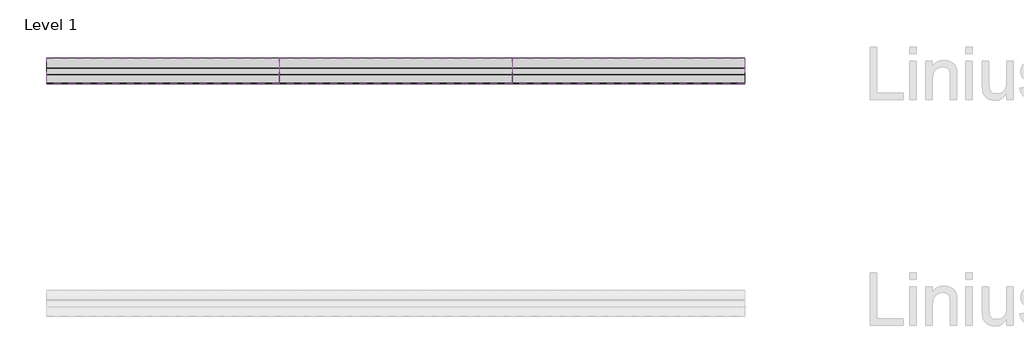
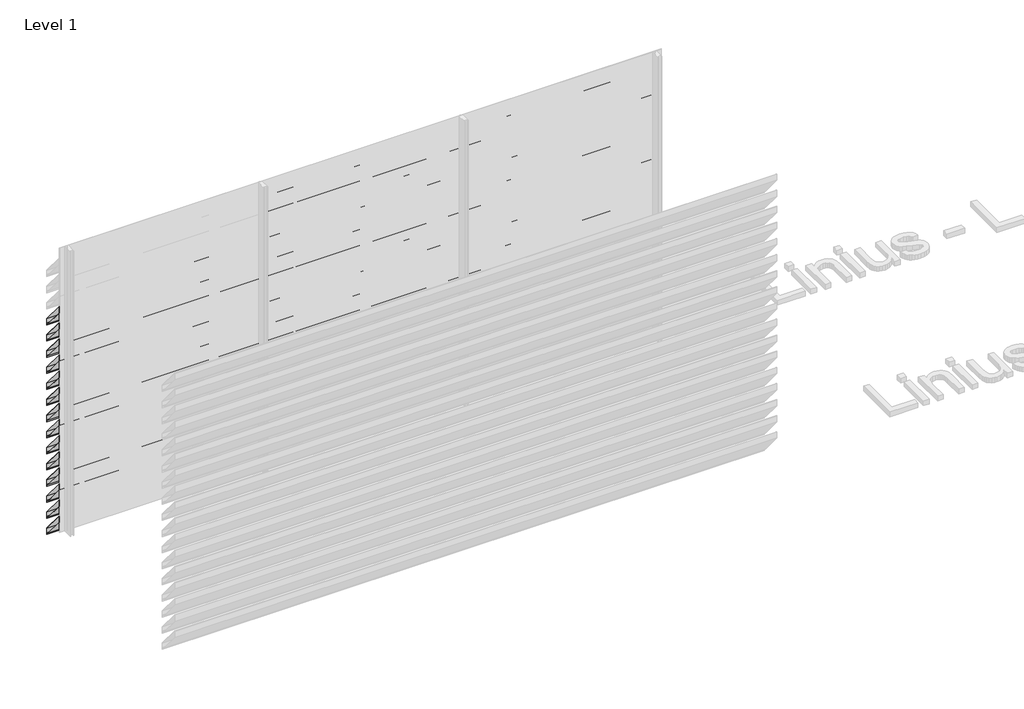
# One storey, part 43 of 121: 48 proxies.
"""IFC4 building model written with IfcOpenShell, lengths in millimetres."""

from ifc_helpers import new_model, si_unit, frame, origin, place, context, project, spatial, polyline, outline, extrude, element, save

model = new_model("IFC4")

# Units and contexts
model_context = context("Model", 3, world=origin())
ifc_project = project(units=[si_unit("LENGTHUNIT", "METRE", prefix="MILLI")], contexts=[model_context])

# Site, building, storey
site = spatial("IfcSite", under=ifc_project)
building = spatial("IfcBuilding", under=site)
storey = spatial("IfcBuildingStorey", under=building, Name="Level 1", Elevation=0.0)

# Proxies
placement = place(None, origin())
element("IfcBuildingElementProxy", 1, Name="Wall Sweeps", at=placement, inside=storey, context=model_context, shape_type="SweptSolid", body=[
    extrude(outline(polyline([(51705.0540136, 2121.0), (51705.0540136, 2052.0), (51702.5540136, 2053.1657691), (51702.5540136, 2066.7059843), (51685.8041465, 2086.6676986), (51675.1189071, 2086.6676986), (51483.0540136, 2315.5617253), (51483.0540136, 2380.0), (51487.7272091, 2380.0), (51705.0540136, 2121.0)]), holes=[polyline([(51486.8412246, 2378.1), (51484.9540136, 2378.1), (51484.9540136, 2316.2532688), (51676.0048916, 2088.5676986), (51686.6901311, 2088.5676986), (51703.1540136, 2068.9468074), (51703.1540136, 2120.3084566), (51486.8412246, 2378.1)])]), frame((466.6208097, 0.0, 0.0), z_axis=(1.0, 0.0, 0.0), x_axis=(0.0, 1.0, 0.0)), (0.0, 0.0, 1.0), 2000.0),
])
element("IfcBuildingElementProxy", 2, Name="Wall Sweeps", at=placement, inside=storey, context=model_context, shape_type="SweptSolid", body=[
    extrude(outline(polyline([(51705.0540136, 1951.0), (51705.0540136, 1882.0), (51702.5540136, 1883.1657691), (51702.5540136, 1896.7059843), (51685.8041465, 1916.6676986), (51675.1189071, 1916.6676986), (51483.0540136, 2145.5617253), (51483.0540136, 2210.0), (51487.7272091, 2210.0), (51705.0540136, 1951.0)]), holes=[polyline([(51486.8412246, 2208.1), (51484.9540136, 2208.1), (51484.9540136, 2146.2532688), (51676.0048916, 1918.5676986), (51686.6901311, 1918.5676986), (51703.1540136, 1898.9468074), (51703.1540136, 1950.3084566), (51486.8412246, 2208.1)])]), frame((466.6208097, 0.0, 0.0), z_axis=(1.0, 0.0, 0.0), x_axis=(0.0, 1.0, 0.0)), (0.0, 0.0, 1.0), 2000.0),
])
element("IfcBuildingElementProxy", 3, Name="Wall Sweeps", at=placement, inside=storey, context=model_context, shape_type="SweptSolid", body=[
    extrude(outline(polyline([(51705.0540136, 1781.0), (51705.0540136, 1712.0), (51702.5540136, 1713.1657691), (51702.5540136, 1726.7059843), (51685.8041465, 1746.6676986), (51675.1189071, 1746.6676986), (51483.0540136, 1975.5617253), (51483.0540136, 2040.0), (51487.7272091, 2040.0), (51705.0540136, 1781.0)]), holes=[polyline([(51486.8412246, 2038.1), (51484.9540136, 2038.1), (51484.9540136, 1976.2532688), (51676.0048916, 1748.5676986), (51686.6901311, 1748.5676986), (51703.1540136, 1728.9468074), (51703.1540136, 1780.3084566), (51486.8412246, 2038.1)])]), frame((466.6208097, 0.0, 0.0), z_axis=(1.0, 0.0, 0.0), x_axis=(0.0, 1.0, 0.0)), (0.0, 0.0, 1.0), 2000.0),
])
element("IfcBuildingElementProxy", 4, Name="Wall Sweeps", at=placement, inside=storey, context=model_context, shape_type="SweptSolid", body=[
    extrude(outline(polyline([(51705.0540136, 1611.0), (51705.0540136, 1542.0), (51702.5540136, 1543.1657691), (51702.5540136, 1556.7059843), (51685.8041465, 1576.6676986), (51675.1189071, 1576.6676986), (51483.0540136, 1805.5617253), (51483.0540136, 1870.0), (51487.7272091, 1870.0), (51705.0540136, 1611.0)]), holes=[polyline([(51486.8412246, 1868.1), (51484.9540136, 1868.1), (51484.9540136, 1806.2532688), (51676.0048916, 1578.5676986), (51686.6901311, 1578.5676986), (51703.1540136, 1558.9468074), (51703.1540136, 1610.3084566), (51486.8412246, 1868.1)])]), frame((466.6208097, 0.0, 0.0), z_axis=(1.0, 0.0, 0.0), x_axis=(0.0, 1.0, 0.0)), (0.0, 0.0, 1.0), 2000.0),
])
element("IfcBuildingElementProxy", 5, Name="Wall Sweeps", at=placement, inside=storey, context=model_context, shape_type="SweptSolid", body=[
    extrude(outline(polyline([(51705.0540136, 1441.0), (51705.0540136, 1372.0), (51702.5540136, 1373.1657691), (51702.5540136, 1386.7059843), (51685.8041465, 1406.6676986), (51675.1189071, 1406.6676986), (51483.0540136, 1635.5617253), (51483.0540136, 1700.0), (51487.7272091, 1700.0), (51705.0540136, 1441.0)]), holes=[polyline([(51486.8412246, 1698.1), (51484.9540136, 1698.1), (51484.9540136, 1636.2532688), (51676.0048916, 1408.5676986), (51686.6901311, 1408.5676986), (51703.1540136, 1388.9468074), (51703.1540136, 1440.3084566), (51486.8412246, 1698.1)])]), frame((466.6208097, 0.0, 0.0), z_axis=(1.0, 0.0, 0.0), x_axis=(0.0, 1.0, 0.0)), (0.0, 0.0, 1.0), 2000.0),
])
element("IfcBuildingElementProxy", 6, Name="Wall Sweeps", at=placement, inside=storey, context=model_context, shape_type="SweptSolid", body=[
    extrude(outline(polyline([(51705.0540136, 1271.0), (51705.0540136, 1202.0), (51702.5540136, 1203.1657691), (51702.5540136, 1216.7059843), (51685.8041465, 1236.6676986), (51675.1189071, 1236.6676986), (51483.0540136, 1465.5617253), (51483.0540136, 1530.0), (51487.7272091, 1530.0), (51705.0540136, 1271.0)]), holes=[polyline([(51486.8412246, 1528.1), (51484.9540136, 1528.1), (51484.9540136, 1466.2532688), (51676.0048916, 1238.5676986), (51686.6901311, 1238.5676986), (51703.1540136, 1218.9468074), (51703.1540136, 1270.3084566), (51486.8412246, 1528.1)])]), frame((466.6208097, 0.0, 0.0), z_axis=(1.0, 0.0, 0.0), x_axis=(0.0, 1.0, 0.0)), (0.0, 0.0, 1.0), 2000.0),
])
element("IfcBuildingElementProxy", 7, Name="Wall Sweeps", at=placement, inside=storey, context=model_context, shape_type="SweptSolid", body=[
    extrude(outline(polyline([(51705.0540136, 1101.0), (51705.0540136, 1032.0), (51702.5540136, 1033.1657691), (51702.5540136, 1046.7059843), (51685.8041465, 1066.6676986), (51675.1189071, 1066.6676986), (51483.0540136, 1295.5617253), (51483.0540136, 1360.0), (51487.7272091, 1360.0), (51705.0540136, 1101.0)]), holes=[polyline([(51486.8412246, 1358.1), (51484.9540136, 1358.1), (51484.9540136, 1296.2532688), (51676.0048916, 1068.5676986), (51686.6901311, 1068.5676986), (51703.1540136, 1048.9468074), (51703.1540136, 1100.3084566), (51486.8412246, 1358.1)])]), frame((466.6208097, 0.0, 0.0), z_axis=(1.0, 0.0, 0.0), x_axis=(0.0, 1.0, 0.0)), (0.0, 0.0, 1.0), 2000.0),
])
element("IfcBuildingElementProxy", 8, Name="Wall Sweeps", at=placement, inside=storey, context=model_context, shape_type="SweptSolid", body=[
    extrude(outline(polyline([(51705.0540136, 931.0), (51705.0540136, 862.0), (51702.5540136, 863.1657691), (51702.5540136, 876.7059843), (51685.8041465, 896.6676986), (51675.1189071, 896.6676986), (51483.0540136, 1125.5617253), (51483.0540136, 1190.0), (51487.7272091, 1190.0), (51705.0540136, 931.0)]), holes=[polyline([(51486.8412246, 1188.1), (51484.9540136, 1188.1), (51484.9540136, 1126.2532688), (51676.0048916, 898.5676986), (51686.6901311, 898.5676986), (51703.1540136, 878.9468074), (51703.1540136, 930.3084566), (51486.8412246, 1188.1)])]), frame((466.6208097, 0.0, 0.0), z_axis=(1.0, 0.0, 0.0), x_axis=(0.0, 1.0, 0.0)), (0.0, 0.0, 1.0), 2000.0),
])
element("IfcBuildingElementProxy", 9, Name="Wall Sweeps", at=placement, inside=storey, context=model_context, shape_type="SweptSolid", body=[
    extrude(outline(polyline([(51705.0540136, 761.0), (51705.0540136, 692.0), (51702.5540136, 693.1657691), (51702.5540136, 706.7059843), (51685.8041465, 726.6676986), (51675.1189071, 726.6676986), (51483.0540136, 955.5617253), (51483.0540136, 1020.0), (51487.7272091, 1020.0), (51705.0540136, 761.0)]), holes=[polyline([(51486.8412246, 1018.1), (51484.9540136, 1018.1), (51484.9540136, 956.2532688), (51676.0048916, 728.5676986), (51686.6901311, 728.5676986), (51703.1540136, 708.9468074), (51703.1540136, 760.3084566), (51486.8412246, 1018.1)])]), frame((466.6208097, 0.0, 0.0), z_axis=(1.0, 0.0, 0.0), x_axis=(0.0, 1.0, 0.0)), (0.0, 0.0, 1.0), 2000.0),
])
element("IfcBuildingElementProxy", 10, Name="Wall Sweeps", at=placement, inside=storey, context=model_context, shape_type="SweptSolid", body=[
    extrude(outline(polyline([(51705.0540136, 591.0), (51705.0540136, 522.0), (51702.5540136, 523.1657691), (51702.5540136, 536.7059843), (51685.8041465, 556.6676986), (51675.1189071, 556.6676986), (51483.0540136, 785.5617253), (51483.0540136, 850.0), (51487.7272091, 850.0), (51705.0540136, 591.0)]), holes=[polyline([(51486.8412246, 848.1), (51484.9540136, 848.1), (51484.9540136, 786.2532688), (51676.0048916, 558.5676986), (51686.6901311, 558.5676986), (51703.1540136, 538.9468074), (51703.1540136, 590.3084566), (51486.8412246, 848.1)])]), frame((466.6208097, 0.0, 0.0), z_axis=(1.0, 0.0, 0.0), x_axis=(0.0, 1.0, 0.0)), (0.0, 0.0, 1.0), 2000.0),
])
element("IfcBuildingElementProxy", 11, Name="Wall Sweeps", at=placement, inside=storey, context=model_context, shape_type="SweptSolid", body=[
    extrude(outline(polyline([(51705.0540136, 421.0), (51705.0540136, 352.0), (51702.5540136, 353.1657691), (51702.5540136, 366.7059843), (51685.8041465, 386.6676986), (51675.1189071, 386.6676986), (51483.0540136, 615.5617253), (51483.0540136, 680.0), (51487.7272091, 680.0), (51705.0540136, 421.0)]), holes=[polyline([(51486.8412246, 678.1), (51484.9540136, 678.1), (51484.9540136, 616.2532688), (51676.0048916, 388.5676986), (51686.6901311, 388.5676986), (51703.1540136, 368.9468074), (51703.1540136, 420.3084566), (51486.8412246, 678.1)])]), frame((466.6208097, 0.0, 0.0), z_axis=(1.0, 0.0, 0.0), x_axis=(0.0, 1.0, 0.0)), (0.0, 0.0, 1.0), 2000.0),
])
element("IfcBuildingElementProxy", 12, Name="Wall Sweeps", at=placement, inside=storey, context=model_context, shape_type="SweptSolid", body=[
    extrude(outline(polyline([(51705.0540136, 251.0), (51705.0540136, 182.0), (51702.5540136, 183.1657691), (51702.5540136, 196.7059843), (51685.8041465, 216.6676986), (51675.1189071, 216.6676986), (51483.0540136, 445.5617253), (51483.0540136, 510.0), (51487.7272091, 510.0), (51705.0540136, 251.0)]), holes=[polyline([(51486.8412246, 508.1), (51484.9540136, 508.1), (51484.9540136, 446.2532688), (51676.0048916, 218.5676986), (51686.6901311, 218.5676986), (51703.1540136, 198.9468074), (51703.1540136, 250.3084566), (51486.8412246, 508.1)])]), frame((466.6208097, 0.0, 0.0), z_axis=(1.0, 0.0, 0.0), x_axis=(0.0, 1.0, 0.0)), (0.0, 0.0, 1.0), 2000.0),
])
element("IfcBuildingElementProxy", 13, Name="Wall Sweeps", at=placement, inside=storey, context=model_context, shape_type="SweptSolid", body=[
    extrude(outline(polyline([(51705.0540136, 81.0), (51705.0540136, 12.0), (51702.5540136, 13.1657691), (51702.5540136, 26.7059843), (51685.8041465, 46.6676986), (51675.1189071, 46.6676986), (51483.0540136, 275.5617253), (51483.0540136, 340.0), (51487.7272091, 340.0), (51705.0540136, 81.0)]), holes=[polyline([(51486.8412246, 338.1), (51484.9540136, 338.1), (51484.9540136, 276.2532688), (51676.0048916, 48.5676986), (51686.6901311, 48.5676986), (51703.1540136, 28.9468074), (51703.1540136, 80.3084566), (51486.8412246, 338.1)])]), frame((466.6208097, 0.0, 0.0), z_axis=(1.0, 0.0, 0.0), x_axis=(0.0, 1.0, 0.0)), (0.0, 0.0, 1.0), 2000.0),
])
element("IfcBuildingElementProxy", 14, Name="Wall Sweeps", at=placement, inside=storey, context=model_context, shape_type="SweptSolid", body=[
    extrude(outline(polyline([(51705.0540136, -89.0), (51705.0540136, -158.0), (51702.5540136, -156.8342309), (51702.5540136, -143.2940157), (51685.8041465, -123.3323014), (51675.1189071, -123.3323014), (51483.0540136, 105.5617253), (51483.0540136, 170.0), (51487.7272091, 170.0), (51705.0540136, -89.0)]), holes=[polyline([(51486.8412246, 168.1), (51484.9540136, 168.1), (51484.9540136, 106.2532688), (51676.0048916, -121.4323014), (51686.6901311, -121.4323014), (51703.1540136, -141.0531926), (51703.1540136, -89.6915434), (51486.8412246, 168.1)])]), frame((466.6208097, 0.0, 0.0), z_axis=(1.0, 0.0, 0.0), x_axis=(0.0, 1.0, 0.0)), (0.0, 0.0, 1.0), 2000.0),
])
element("IfcBuildingElementProxy", 15, Name="Wall Sweeps", at=placement, inside=storey, context=model_context, shape_type="SweptSolid", body=[
    extrude(outline(polyline([(51705.0540136, 2631.0), (51705.0540136, 2562.0), (51702.5540136, 2563.1657691), (51702.5540136, 2576.7059843), (51685.8041465, 2596.6676986), (51675.1189071, 2596.6676986), (51483.0540136, 2825.5617253), (51483.0540136, 2890.0), (51487.7272091, 2890.0), (51705.0540136, 2631.0)]), holes=[polyline([(51486.8412246, 2888.1), (51484.9540136, 2888.1), (51484.9540136, 2826.2532688), (51676.0048916, 2598.5676986), (51686.6901311, 2598.5676986), (51703.1540136, 2578.9468074), (51703.1540136, 2630.3084566), (51486.8412246, 2888.1)])]), frame((2466.6208097, 0.0, 0.0), z_axis=(1.0, 0.0, 0.0), x_axis=(0.0, 1.0, 0.0)), (0.0, 0.0, 1.0), 2000.0),
])
element("IfcBuildingElementProxy", 16, Name="Wall Sweeps", at=placement, inside=storey, context=model_context, shape_type="SweptSolid", body=[
    extrude(outline(polyline([(51705.0540136, 2461.0), (51705.0540136, 2392.0), (51702.5540136, 2393.1657691), (51702.5540136, 2406.7059843), (51685.8041465, 2426.6676986), (51675.1189071, 2426.6676986), (51483.0540136, 2655.5617253), (51483.0540136, 2720.0), (51487.7272091, 2720.0), (51705.0540136, 2461.0)]), holes=[polyline([(51486.8412246, 2718.1), (51484.9540136, 2718.1), (51484.9540136, 2656.2532688), (51676.0048916, 2428.5676986), (51686.6901311, 2428.5676986), (51703.1540136, 2408.9468074), (51703.1540136, 2460.3084566), (51486.8412246, 2718.1)])]), frame((2466.6208097, 0.0, 0.0), z_axis=(1.0, 0.0, 0.0), x_axis=(0.0, 1.0, 0.0)), (0.0, 0.0, 1.0), 2000.0),
])
element("IfcBuildingElementProxy", 17, Name="Wall Sweeps", at=placement, inside=storey, context=model_context, shape_type="SweptSolid", body=[
    extrude(outline(polyline([(51705.0540136, 2291.0), (51705.0540136, 2222.0), (51702.5540136, 2223.1657691), (51702.5540136, 2236.7059843), (51685.8041465, 2256.6676986), (51675.1189071, 2256.6676986), (51483.0540136, 2485.5617253), (51483.0540136, 2550.0), (51487.7272091, 2550.0), (51705.0540136, 2291.0)]), holes=[polyline([(51486.8412246, 2548.1), (51484.9540136, 2548.1), (51484.9540136, 2486.2532688), (51676.0048916, 2258.5676986), (51686.6901311, 2258.5676986), (51703.1540136, 2238.9468074), (51703.1540136, 2290.3084566), (51486.8412246, 2548.1)])]), frame((2466.6208097, 0.0, 0.0), z_axis=(1.0, 0.0, 0.0), x_axis=(0.0, 1.0, 0.0)), (0.0, 0.0, 1.0), 2000.0),
])
element("IfcBuildingElementProxy", 18, Name="Wall Sweeps", at=placement, inside=storey, context=model_context, shape_type="SweptSolid", body=[
    extrude(outline(polyline([(51705.0540136, 2121.0), (51705.0540136, 2052.0), (51702.5540136, 2053.1657691), (51702.5540136, 2066.7059843), (51685.8041465, 2086.6676986), (51675.1189071, 2086.6676986), (51483.0540136, 2315.5617253), (51483.0540136, 2380.0), (51487.7272091, 2380.0), (51705.0540136, 2121.0)]), holes=[polyline([(51486.8412246, 2378.1), (51484.9540136, 2378.1), (51484.9540136, 2316.2532688), (51676.0048916, 2088.5676986), (51686.6901311, 2088.5676986), (51703.1540136, 2068.9468074), (51703.1540136, 2120.3084566), (51486.8412246, 2378.1)])]), frame((2466.6208097, 0.0, 0.0), z_axis=(1.0, 0.0, 0.0), x_axis=(0.0, 1.0, 0.0)), (0.0, 0.0, 1.0), 2000.0),
])
element("IfcBuildingElementProxy", 19, Name="Wall Sweeps", at=placement, inside=storey, context=model_context, shape_type="SweptSolid", body=[
    extrude(outline(polyline([(51705.0540136, 1951.0), (51705.0540136, 1882.0), (51702.5540136, 1883.1657691), (51702.5540136, 1896.7059843), (51685.8041465, 1916.6676986), (51675.1189071, 1916.6676986), (51483.0540136, 2145.5617253), (51483.0540136, 2210.0), (51487.7272091, 2210.0), (51705.0540136, 1951.0)]), holes=[polyline([(51486.8412246, 2208.1), (51484.9540136, 2208.1), (51484.9540136, 2146.2532688), (51676.0048916, 1918.5676986), (51686.6901311, 1918.5676986), (51703.1540136, 1898.9468074), (51703.1540136, 1950.3084566), (51486.8412246, 2208.1)])]), frame((2466.6208097, 0.0, 0.0), z_axis=(1.0, 0.0, 0.0), x_axis=(0.0, 1.0, 0.0)), (0.0, 0.0, 1.0), 2000.0),
])
element("IfcBuildingElementProxy", 20, Name="Wall Sweeps", at=placement, inside=storey, context=model_context, shape_type="SweptSolid", body=[
    extrude(outline(polyline([(51705.0540136, 1781.0), (51705.0540136, 1712.0), (51702.5540136, 1713.1657691), (51702.5540136, 1726.7059843), (51685.8041465, 1746.6676986), (51675.1189071, 1746.6676986), (51483.0540136, 1975.5617253), (51483.0540136, 2040.0), (51487.7272091, 2040.0), (51705.0540136, 1781.0)]), holes=[polyline([(51486.8412246, 2038.1), (51484.9540136, 2038.1), (51484.9540136, 1976.2532688), (51676.0048916, 1748.5676986), (51686.6901311, 1748.5676986), (51703.1540136, 1728.9468074), (51703.1540136, 1780.3084566), (51486.8412246, 2038.1)])]), frame((2466.6208097, 0.0, 0.0), z_axis=(1.0, 0.0, 0.0), x_axis=(0.0, 1.0, 0.0)), (0.0, 0.0, 1.0), 2000.0),
])
element("IfcBuildingElementProxy", 21, Name="Wall Sweeps", at=placement, inside=storey, context=model_context, shape_type="SweptSolid", body=[
    extrude(outline(polyline([(51705.0540136, 1611.0), (51705.0540136, 1542.0), (51702.5540136, 1543.1657691), (51702.5540136, 1556.7059843), (51685.8041465, 1576.6676986), (51675.1189071, 1576.6676986), (51483.0540136, 1805.5617253), (51483.0540136, 1870.0), (51487.7272091, 1870.0), (51705.0540136, 1611.0)]), holes=[polyline([(51486.8412246, 1868.1), (51484.9540136, 1868.1), (51484.9540136, 1806.2532688), (51676.0048916, 1578.5676986), (51686.6901311, 1578.5676986), (51703.1540136, 1558.9468074), (51703.1540136, 1610.3084566), (51486.8412246, 1868.1)])]), frame((2466.6208097, 0.0, 0.0), z_axis=(1.0, 0.0, 0.0), x_axis=(0.0, 1.0, 0.0)), (0.0, 0.0, 1.0), 2000.0),
])
element("IfcBuildingElementProxy", 22, Name="Wall Sweeps", at=placement, inside=storey, context=model_context, shape_type="SweptSolid", body=[
    extrude(outline(polyline([(51705.0540136, 1441.0), (51705.0540136, 1372.0), (51702.5540136, 1373.1657691), (51702.5540136, 1386.7059843), (51685.8041465, 1406.6676986), (51675.1189071, 1406.6676986), (51483.0540136, 1635.5617253), (51483.0540136, 1700.0), (51487.7272091, 1700.0), (51705.0540136, 1441.0)]), holes=[polyline([(51486.8412246, 1698.1), (51484.9540136, 1698.1), (51484.9540136, 1636.2532688), (51676.0048916, 1408.5676986), (51686.6901311, 1408.5676986), (51703.1540136, 1388.9468074), (51703.1540136, 1440.3084566), (51486.8412246, 1698.1)])]), frame((2466.6208097, 0.0, 0.0), z_axis=(1.0, 0.0, 0.0), x_axis=(0.0, 1.0, 0.0)), (0.0, 0.0, 1.0), 2000.0),
])
element("IfcBuildingElementProxy", 23, Name="Wall Sweeps", at=placement, inside=storey, context=model_context, shape_type="SweptSolid", body=[
    extrude(outline(polyline([(51705.0540136, 1271.0), (51705.0540136, 1202.0), (51702.5540136, 1203.1657691), (51702.5540136, 1216.7059843), (51685.8041465, 1236.6676986), (51675.1189071, 1236.6676986), (51483.0540136, 1465.5617253), (51483.0540136, 1530.0), (51487.7272091, 1530.0), (51705.0540136, 1271.0)]), holes=[polyline([(51486.8412246, 1528.1), (51484.9540136, 1528.1), (51484.9540136, 1466.2532688), (51676.0048916, 1238.5676986), (51686.6901311, 1238.5676986), (51703.1540136, 1218.9468074), (51703.1540136, 1270.3084566), (51486.8412246, 1528.1)])]), frame((2466.6208097, 0.0, 0.0), z_axis=(1.0, 0.0, 0.0), x_axis=(0.0, 1.0, 0.0)), (0.0, 0.0, 1.0), 2000.0),
])
element("IfcBuildingElementProxy", 24, Name="Wall Sweeps", at=placement, inside=storey, context=model_context, shape_type="SweptSolid", body=[
    extrude(outline(polyline([(51705.0540136, 1101.0), (51705.0540136, 1032.0), (51702.5540136, 1033.1657691), (51702.5540136, 1046.7059843), (51685.8041465, 1066.6676986), (51675.1189071, 1066.6676986), (51483.0540136, 1295.5617253), (51483.0540136, 1360.0), (51487.7272091, 1360.0), (51705.0540136, 1101.0)]), holes=[polyline([(51486.8412246, 1358.1), (51484.9540136, 1358.1), (51484.9540136, 1296.2532688), (51676.0048916, 1068.5676986), (51686.6901311, 1068.5676986), (51703.1540136, 1048.9468074), (51703.1540136, 1100.3084566), (51486.8412246, 1358.1)])]), frame((2466.6208097, 0.0, 0.0), z_axis=(1.0, 0.0, 0.0), x_axis=(0.0, 1.0, 0.0)), (0.0, 0.0, 1.0), 2000.0),
])
element("IfcBuildingElementProxy", 25, Name="Wall Sweeps", at=placement, inside=storey, context=model_context, shape_type="SweptSolid", body=[
    extrude(outline(polyline([(51705.0540136, 931.0), (51705.0540136, 862.0), (51702.5540136, 863.1657691), (51702.5540136, 876.7059843), (51685.8041465, 896.6676986), (51675.1189071, 896.6676986), (51483.0540136, 1125.5617253), (51483.0540136, 1190.0), (51487.7272091, 1190.0), (51705.0540136, 931.0)]), holes=[polyline([(51486.8412246, 1188.1), (51484.9540136, 1188.1), (51484.9540136, 1126.2532688), (51676.0048916, 898.5676986), (51686.6901311, 898.5676986), (51703.1540136, 878.9468074), (51703.1540136, 930.3084566), (51486.8412246, 1188.1)])]), frame((2466.6208097, 0.0, 0.0), z_axis=(1.0, 0.0, 0.0), x_axis=(0.0, 1.0, 0.0)), (0.0, 0.0, 1.0), 2000.0),
])
element("IfcBuildingElementProxy", 26, Name="Wall Sweeps", at=placement, inside=storey, context=model_context, shape_type="SweptSolid", body=[
    extrude(outline(polyline([(51705.0540136, 761.0), (51705.0540136, 692.0), (51702.5540136, 693.1657691), (51702.5540136, 706.7059843), (51685.8041465, 726.6676986), (51675.1189071, 726.6676986), (51483.0540136, 955.5617253), (51483.0540136, 1020.0), (51487.7272091, 1020.0), (51705.0540136, 761.0)]), holes=[polyline([(51486.8412246, 1018.1), (51484.9540136, 1018.1), (51484.9540136, 956.2532688), (51676.0048916, 728.5676986), (51686.6901311, 728.5676986), (51703.1540136, 708.9468074), (51703.1540136, 760.3084566), (51486.8412246, 1018.1)])]), frame((2466.6208097, 0.0, 0.0), z_axis=(1.0, 0.0, 0.0), x_axis=(0.0, 1.0, 0.0)), (0.0, 0.0, 1.0), 2000.0),
])
element("IfcBuildingElementProxy", 27, Name="Wall Sweeps", at=placement, inside=storey, context=model_context, shape_type="SweptSolid", body=[
    extrude(outline(polyline([(51705.0540136, 591.0), (51705.0540136, 522.0), (51702.5540136, 523.1657691), (51702.5540136, 536.7059843), (51685.8041465, 556.6676986), (51675.1189071, 556.6676986), (51483.0540136, 785.5617253), (51483.0540136, 850.0), (51487.7272091, 850.0), (51705.0540136, 591.0)]), holes=[polyline([(51486.8412246, 848.1), (51484.9540136, 848.1), (51484.9540136, 786.2532688), (51676.0048916, 558.5676986), (51686.6901311, 558.5676986), (51703.1540136, 538.9468074), (51703.1540136, 590.3084566), (51486.8412246, 848.1)])]), frame((2466.6208097, 0.0, 0.0), z_axis=(1.0, 0.0, 0.0), x_axis=(0.0, 1.0, 0.0)), (0.0, 0.0, 1.0), 2000.0),
])
element("IfcBuildingElementProxy", 28, Name="Wall Sweeps", at=placement, inside=storey, context=model_context, shape_type="SweptSolid", body=[
    extrude(outline(polyline([(51705.0540136, 421.0), (51705.0540136, 352.0), (51702.5540136, 353.1657691), (51702.5540136, 366.7059843), (51685.8041465, 386.6676986), (51675.1189071, 386.6676986), (51483.0540136, 615.5617253), (51483.0540136, 680.0), (51487.7272091, 680.0), (51705.0540136, 421.0)]), holes=[polyline([(51486.8412246, 678.1), (51484.9540136, 678.1), (51484.9540136, 616.2532688), (51676.0048916, 388.5676986), (51686.6901311, 388.5676986), (51703.1540136, 368.9468074), (51703.1540136, 420.3084566), (51486.8412246, 678.1)])]), frame((2466.6208097, 0.0, 0.0), z_axis=(1.0, 0.0, 0.0), x_axis=(0.0, 1.0, 0.0)), (0.0, 0.0, 1.0), 2000.0),
])
element("IfcBuildingElementProxy", 29, Name="Wall Sweeps", at=placement, inside=storey, context=model_context, shape_type="SweptSolid", body=[
    extrude(outline(polyline([(51705.0540136, 251.0), (51705.0540136, 182.0), (51702.5540136, 183.1657691), (51702.5540136, 196.7059843), (51685.8041465, 216.6676986), (51675.1189071, 216.6676986), (51483.0540136, 445.5617253), (51483.0540136, 510.0), (51487.7272091, 510.0), (51705.0540136, 251.0)]), holes=[polyline([(51486.8412246, 508.1), (51484.9540136, 508.1), (51484.9540136, 446.2532688), (51676.0048916, 218.5676986), (51686.6901311, 218.5676986), (51703.1540136, 198.9468074), (51703.1540136, 250.3084566), (51486.8412246, 508.1)])]), frame((2466.6208097, 0.0, 0.0), z_axis=(1.0, 0.0, 0.0), x_axis=(0.0, 1.0, 0.0)), (0.0, 0.0, 1.0), 2000.0),
])
element("IfcBuildingElementProxy", 30, Name="Wall Sweeps", at=placement, inside=storey, context=model_context, shape_type="SweptSolid", body=[
    extrude(outline(polyline([(51705.0540136, 81.0), (51705.0540136, 12.0), (51702.5540136, 13.1657691), (51702.5540136, 26.7059843), (51685.8041465, 46.6676986), (51675.1189071, 46.6676986), (51483.0540136, 275.5617253), (51483.0540136, 340.0), (51487.7272091, 340.0), (51705.0540136, 81.0)]), holes=[polyline([(51486.8412246, 338.1), (51484.9540136, 338.1), (51484.9540136, 276.2532688), (51676.0048916, 48.5676986), (51686.6901311, 48.5676986), (51703.1540136, 28.9468074), (51703.1540136, 80.3084566), (51486.8412246, 338.1)])]), frame((2466.6208097, 0.0, 0.0), z_axis=(1.0, 0.0, 0.0), x_axis=(0.0, 1.0, 0.0)), (0.0, 0.0, 1.0), 2000.0),
])
element("IfcBuildingElementProxy", 31, Name="Wall Sweeps", at=placement, inside=storey, context=model_context, shape_type="SweptSolid", body=[
    extrude(outline(polyline([(51705.0540136, -89.0), (51705.0540136, -158.0), (51702.5540136, -156.8342309), (51702.5540136, -143.2940157), (51685.8041465, -123.3323014), (51675.1189071, -123.3323014), (51483.0540136, 105.5617253), (51483.0540136, 170.0), (51487.7272091, 170.0), (51705.0540136, -89.0)]), holes=[polyline([(51486.8412246, 168.1), (51484.9540136, 168.1), (51484.9540136, 106.2532688), (51676.0048916, -121.4323014), (51686.6901311, -121.4323014), (51703.1540136, -141.0531926), (51703.1540136, -89.6915434), (51486.8412246, 168.1)])]), frame((2466.6208097, 0.0, 0.0), z_axis=(1.0, 0.0, 0.0), x_axis=(0.0, 1.0, 0.0)), (0.0, 0.0, 1.0), 2000.0),
])
element("IfcBuildingElementProxy", 32, Name="Wall Sweeps", at=placement, inside=storey, context=model_context, shape_type="SweptSolid", body=[
    extrude(outline(polyline([(51705.0540136, 2631.0), (51705.0540136, 2562.0), (51702.5540136, 2563.1657691), (51702.5540136, 2576.7059843), (51685.8041465, 2596.6676986), (51675.1189071, 2596.6676986), (51483.0540136, 2825.5617253), (51483.0540136, 2890.0), (51487.7272091, 2890.0), (51705.0540136, 2631.0)]), holes=[polyline([(51486.8412246, 2888.1), (51484.9540136, 2888.1), (51484.9540136, 2826.2532688), (51676.0048916, 2598.5676986), (51686.6901311, 2598.5676986), (51703.1540136, 2578.9468074), (51703.1540136, 2630.3084566), (51486.8412246, 2888.1)])]), frame((4466.6208097, 0.0, 0.0), z_axis=(1.0, 0.0, 0.0), x_axis=(0.0, 1.0, 0.0)), (0.0, 0.0, 1.0), 2000.0),
])
element("IfcBuildingElementProxy", 33, Name="Wall Sweeps", at=placement, inside=storey, context=model_context, shape_type="SweptSolid", body=[
    extrude(outline(polyline([(51705.0540136, 2461.0), (51705.0540136, 2392.0), (51702.5540136, 2393.1657691), (51702.5540136, 2406.7059843), (51685.8041465, 2426.6676986), (51675.1189071, 2426.6676986), (51483.0540136, 2655.5617253), (51483.0540136, 2720.0), (51487.7272091, 2720.0), (51705.0540136, 2461.0)]), holes=[polyline([(51486.8412246, 2718.1), (51484.9540136, 2718.1), (51484.9540136, 2656.2532688), (51676.0048916, 2428.5676986), (51686.6901311, 2428.5676986), (51703.1540136, 2408.9468074), (51703.1540136, 2460.3084566), (51486.8412246, 2718.1)])]), frame((4466.6208097, 0.0, 0.0), z_axis=(1.0, 0.0, 0.0), x_axis=(0.0, 1.0, 0.0)), (0.0, 0.0, 1.0), 2000.0),
])
element("IfcBuildingElementProxy", 34, Name="Wall Sweeps", at=placement, inside=storey, context=model_context, shape_type="SweptSolid", body=[
    extrude(outline(polyline([(51705.0540136, 2291.0), (51705.0540136, 2222.0), (51702.5540136, 2223.1657691), (51702.5540136, 2236.7059843), (51685.8041465, 2256.6676986), (51675.1189071, 2256.6676986), (51483.0540136, 2485.5617253), (51483.0540136, 2550.0), (51487.7272091, 2550.0), (51705.0540136, 2291.0)]), holes=[polyline([(51486.8412246, 2548.1), (51484.9540136, 2548.1), (51484.9540136, 2486.2532688), (51676.0048916, 2258.5676986), (51686.6901311, 2258.5676986), (51703.1540136, 2238.9468074), (51703.1540136, 2290.3084566), (51486.8412246, 2548.1)])]), frame((4466.6208097, 0.0, 0.0), z_axis=(1.0, 0.0, 0.0), x_axis=(0.0, 1.0, 0.0)), (0.0, 0.0, 1.0), 2000.0),
])
element("IfcBuildingElementProxy", 35, Name="Wall Sweeps", at=placement, inside=storey, context=model_context, shape_type="SweptSolid", body=[
    extrude(outline(polyline([(51705.0540136, 2121.0), (51705.0540136, 2052.0), (51702.5540136, 2053.1657691), (51702.5540136, 2066.7059843), (51685.8041465, 2086.6676986), (51675.1189071, 2086.6676986), (51483.0540136, 2315.5617253), (51483.0540136, 2380.0), (51487.7272091, 2380.0), (51705.0540136, 2121.0)]), holes=[polyline([(51486.8412246, 2378.1), (51484.9540136, 2378.1), (51484.9540136, 2316.2532688), (51676.0048916, 2088.5676986), (51686.6901311, 2088.5676986), (51703.1540136, 2068.9468074), (51703.1540136, 2120.3084566), (51486.8412246, 2378.1)])]), frame((4466.6208097, 0.0, 0.0), z_axis=(1.0, 0.0, 0.0), x_axis=(0.0, 1.0, 0.0)), (0.0, 0.0, 1.0), 2000.0),
])
element("IfcBuildingElementProxy", 36, Name="Wall Sweeps", at=placement, inside=storey, context=model_context, shape_type="SweptSolid", body=[
    extrude(outline(polyline([(51705.0540136, 1951.0), (51705.0540136, 1882.0), (51702.5540136, 1883.1657691), (51702.5540136, 1896.7059843), (51685.8041465, 1916.6676986), (51675.1189071, 1916.6676986), (51483.0540136, 2145.5617253), (51483.0540136, 2210.0), (51487.7272091, 2210.0), (51705.0540136, 1951.0)]), holes=[polyline([(51486.8412246, 2208.1), (51484.9540136, 2208.1), (51484.9540136, 2146.2532688), (51676.0048916, 1918.5676986), (51686.6901311, 1918.5676986), (51703.1540136, 1898.9468074), (51703.1540136, 1950.3084566), (51486.8412246, 2208.1)])]), frame((4466.6208097, 0.0, 0.0), z_axis=(1.0, 0.0, 0.0), x_axis=(0.0, 1.0, 0.0)), (0.0, 0.0, 1.0), 2000.0),
])
element("IfcBuildingElementProxy", 37, Name="Wall Sweeps", at=placement, inside=storey, context=model_context, shape_type="SweptSolid", body=[
    extrude(outline(polyline([(51705.0540136, 1781.0), (51705.0540136, 1712.0), (51702.5540136, 1713.1657691), (51702.5540136, 1726.7059843), (51685.8041465, 1746.6676986), (51675.1189071, 1746.6676986), (51483.0540136, 1975.5617253), (51483.0540136, 2040.0), (51487.7272091, 2040.0), (51705.0540136, 1781.0)]), holes=[polyline([(51486.8412246, 2038.1), (51484.9540136, 2038.1), (51484.9540136, 1976.2532688), (51676.0048916, 1748.5676986), (51686.6901311, 1748.5676986), (51703.1540136, 1728.9468074), (51703.1540136, 1780.3084566), (51486.8412246, 2038.1)])]), frame((4466.6208097, 0.0, 0.0), z_axis=(1.0, 0.0, 0.0), x_axis=(0.0, 1.0, 0.0)), (0.0, 0.0, 1.0), 2000.0),
])
element("IfcBuildingElementProxy", 38, Name="Wall Sweeps", at=placement, inside=storey, context=model_context, shape_type="SweptSolid", body=[
    extrude(outline(polyline([(51705.0540136, 1611.0), (51705.0540136, 1542.0), (51702.5540136, 1543.1657691), (51702.5540136, 1556.7059843), (51685.8041465, 1576.6676986), (51675.1189071, 1576.6676986), (51483.0540136, 1805.5617253), (51483.0540136, 1870.0), (51487.7272091, 1870.0), (51705.0540136, 1611.0)]), holes=[polyline([(51486.8412246, 1868.1), (51484.9540136, 1868.1), (51484.9540136, 1806.2532688), (51676.0048916, 1578.5676986), (51686.6901311, 1578.5676986), (51703.1540136, 1558.9468074), (51703.1540136, 1610.3084566), (51486.8412246, 1868.1)])]), frame((4466.6208097, 0.0, 0.0), z_axis=(1.0, 0.0, 0.0), x_axis=(0.0, 1.0, 0.0)), (0.0, 0.0, 1.0), 2000.0),
])
element("IfcBuildingElementProxy", 39, Name="Wall Sweeps", at=placement, inside=storey, context=model_context, shape_type="SweptSolid", body=[
    extrude(outline(polyline([(51705.0540136, 1441.0), (51705.0540136, 1372.0), (51702.5540136, 1373.1657691), (51702.5540136, 1386.7059843), (51685.8041465, 1406.6676986), (51675.1189071, 1406.6676986), (51483.0540136, 1635.5617253), (51483.0540136, 1700.0), (51487.7272091, 1700.0), (51705.0540136, 1441.0)]), holes=[polyline([(51486.8412246, 1698.1), (51484.9540136, 1698.1), (51484.9540136, 1636.2532688), (51676.0048916, 1408.5676986), (51686.6901311, 1408.5676986), (51703.1540136, 1388.9468074), (51703.1540136, 1440.3084566), (51486.8412246, 1698.1)])]), frame((4466.6208097, 0.0, 0.0), z_axis=(1.0, 0.0, 0.0), x_axis=(0.0, 1.0, 0.0)), (0.0, 0.0, 1.0), 2000.0),
])
element("IfcBuildingElementProxy", 40, Name="Wall Sweeps", at=placement, inside=storey, context=model_context, shape_type="SweptSolid", body=[
    extrude(outline(polyline([(51705.0540136, 1271.0), (51705.0540136, 1202.0), (51702.5540136, 1203.1657691), (51702.5540136, 1216.7059843), (51685.8041465, 1236.6676986), (51675.1189071, 1236.6676986), (51483.0540136, 1465.5617253), (51483.0540136, 1530.0), (51487.7272091, 1530.0), (51705.0540136, 1271.0)]), holes=[polyline([(51486.8412246, 1528.1), (51484.9540136, 1528.1), (51484.9540136, 1466.2532688), (51676.0048916, 1238.5676986), (51686.6901311, 1238.5676986), (51703.1540136, 1218.9468074), (51703.1540136, 1270.3084566), (51486.8412246, 1528.1)])]), frame((4466.6208097, 0.0, 0.0), z_axis=(1.0, 0.0, 0.0), x_axis=(0.0, 1.0, 0.0)), (0.0, 0.0, 1.0), 2000.0),
])
element("IfcBuildingElementProxy", 41, Name="Wall Sweeps", at=placement, inside=storey, context=model_context, shape_type="SweptSolid", body=[
    extrude(outline(polyline([(51705.0540136, 1101.0), (51705.0540136, 1032.0), (51702.5540136, 1033.1657691), (51702.5540136, 1046.7059843), (51685.8041465, 1066.6676986), (51675.1189071, 1066.6676986), (51483.0540136, 1295.5617253), (51483.0540136, 1360.0), (51487.7272091, 1360.0), (51705.0540136, 1101.0)]), holes=[polyline([(51486.8412246, 1358.1), (51484.9540136, 1358.1), (51484.9540136, 1296.2532688), (51676.0048916, 1068.5676986), (51686.6901311, 1068.5676986), (51703.1540136, 1048.9468074), (51703.1540136, 1100.3084566), (51486.8412246, 1358.1)])]), frame((4466.6208097, 0.0, 0.0), z_axis=(1.0, 0.0, 0.0), x_axis=(0.0, 1.0, 0.0)), (0.0, 0.0, 1.0), 2000.0),
])
element("IfcBuildingElementProxy", 42, Name="Wall Sweeps", at=placement, inside=storey, context=model_context, shape_type="SweptSolid", body=[
    extrude(outline(polyline([(51705.0540136, 931.0), (51705.0540136, 862.0), (51702.5540136, 863.1657691), (51702.5540136, 876.7059843), (51685.8041465, 896.6676986), (51675.1189071, 896.6676986), (51483.0540136, 1125.5617253), (51483.0540136, 1190.0), (51487.7272091, 1190.0), (51705.0540136, 931.0)]), holes=[polyline([(51486.8412246, 1188.1), (51484.9540136, 1188.1), (51484.9540136, 1126.2532688), (51676.0048916, 898.5676986), (51686.6901311, 898.5676986), (51703.1540136, 878.9468074), (51703.1540136, 930.3084566), (51486.8412246, 1188.1)])]), frame((4466.6208097, 0.0, 0.0), z_axis=(1.0, 0.0, 0.0), x_axis=(0.0, 1.0, 0.0)), (0.0, 0.0, 1.0), 2000.0),
])
element("IfcBuildingElementProxy", 43, Name="Wall Sweeps", at=placement, inside=storey, context=model_context, shape_type="SweptSolid", body=[
    extrude(outline(polyline([(51705.0540136, 761.0), (51705.0540136, 692.0), (51702.5540136, 693.1657691), (51702.5540136, 706.7059843), (51685.8041465, 726.6676986), (51675.1189071, 726.6676986), (51483.0540136, 955.5617253), (51483.0540136, 1020.0), (51487.7272091, 1020.0), (51705.0540136, 761.0)]), holes=[polyline([(51486.8412246, 1018.1), (51484.9540136, 1018.1), (51484.9540136, 956.2532688), (51676.0048916, 728.5676986), (51686.6901311, 728.5676986), (51703.1540136, 708.9468074), (51703.1540136, 760.3084566), (51486.8412246, 1018.1)])]), frame((4466.6208097, 0.0, 0.0), z_axis=(1.0, 0.0, 0.0), x_axis=(0.0, 1.0, 0.0)), (0.0, 0.0, 1.0), 2000.0),
])
element("IfcBuildingElementProxy", 44, Name="Wall Sweeps", at=placement, inside=storey, context=model_context, shape_type="SweptSolid", body=[
    extrude(outline(polyline([(51705.0540136, 591.0), (51705.0540136, 522.0), (51702.5540136, 523.1657691), (51702.5540136, 536.7059843), (51685.8041465, 556.6676986), (51675.1189071, 556.6676986), (51483.0540136, 785.5617253), (51483.0540136, 850.0), (51487.7272091, 850.0), (51705.0540136, 591.0)]), holes=[polyline([(51486.8412246, 848.1), (51484.9540136, 848.1), (51484.9540136, 786.2532688), (51676.0048916, 558.5676986), (51686.6901311, 558.5676986), (51703.1540136, 538.9468074), (51703.1540136, 590.3084566), (51486.8412246, 848.1)])]), frame((4466.6208097, 0.0, 0.0), z_axis=(1.0, 0.0, 0.0), x_axis=(0.0, 1.0, 0.0)), (0.0, 0.0, 1.0), 2000.0),
])
element("IfcBuildingElementProxy", 45, Name="Wall Sweeps", at=placement, inside=storey, context=model_context, shape_type="SweptSolid", body=[
    extrude(outline(polyline([(51705.0540136, 421.0), (51705.0540136, 352.0), (51702.5540136, 353.1657691), (51702.5540136, 366.7059843), (51685.8041465, 386.6676986), (51675.1189071, 386.6676986), (51483.0540136, 615.5617253), (51483.0540136, 680.0), (51487.7272091, 680.0), (51705.0540136, 421.0)]), holes=[polyline([(51486.8412246, 678.1), (51484.9540136, 678.1), (51484.9540136, 616.2532688), (51676.0048916, 388.5676986), (51686.6901311, 388.5676986), (51703.1540136, 368.9468074), (51703.1540136, 420.3084566), (51486.8412246, 678.1)])]), frame((4466.6208097, 0.0, 0.0), z_axis=(1.0, 0.0, 0.0), x_axis=(0.0, 1.0, 0.0)), (0.0, 0.0, 1.0), 2000.0),
])
element("IfcBuildingElementProxy", 46, Name="Wall Sweeps", at=placement, inside=storey, context=model_context, shape_type="SweptSolid", body=[
    extrude(outline(polyline([(51705.0540136, 251.0), (51705.0540136, 182.0), (51702.5540136, 183.1657691), (51702.5540136, 196.7059843), (51685.8041465, 216.6676986), (51675.1189071, 216.6676986), (51483.0540136, 445.5617253), (51483.0540136, 510.0), (51487.7272091, 510.0), (51705.0540136, 251.0)]), holes=[polyline([(51486.8412246, 508.1), (51484.9540136, 508.1), (51484.9540136, 446.2532688), (51676.0048916, 218.5676986), (51686.6901311, 218.5676986), (51703.1540136, 198.9468074), (51703.1540136, 250.3084566), (51486.8412246, 508.1)])]), frame((4466.6208097, 0.0, 0.0), z_axis=(1.0, 0.0, 0.0), x_axis=(0.0, 1.0, 0.0)), (0.0, 0.0, 1.0), 2000.0),
])
element("IfcBuildingElementProxy", 47, Name="Wall Sweeps", at=placement, inside=storey, context=model_context, shape_type="SweptSolid", body=[
    extrude(outline(polyline([(51705.0540136, 81.0), (51705.0540136, 12.0), (51702.5540136, 13.1657691), (51702.5540136, 26.7059843), (51685.8041465, 46.6676986), (51675.1189071, 46.6676986), (51483.0540136, 275.5617253), (51483.0540136, 340.0), (51487.7272091, 340.0), (51705.0540136, 81.0)]), holes=[polyline([(51486.8412246, 338.1), (51484.9540136, 338.1), (51484.9540136, 276.2532688), (51676.0048916, 48.5676986), (51686.6901311, 48.5676986), (51703.1540136, 28.9468074), (51703.1540136, 80.3084566), (51486.8412246, 338.1)])]), frame((4466.6208097, 0.0, 0.0), z_axis=(1.0, 0.0, 0.0), x_axis=(0.0, 1.0, 0.0)), (0.0, 0.0, 1.0), 2000.0),
])
element("IfcBuildingElementProxy", 48, Name="Wall Sweeps", at=placement, inside=storey, context=model_context, shape_type="SweptSolid", body=[
    extrude(outline(polyline([(51705.0540136, -89.0), (51705.0540136, -158.0), (51702.5540136, -156.8342309), (51702.5540136, -143.2940157), (51685.8041465, -123.3323014), (51675.1189071, -123.3323014), (51483.0540136, 105.5617253), (51483.0540136, 170.0), (51487.7272091, 170.0), (51705.0540136, -89.0)]), holes=[polyline([(51486.8412246, 168.1), (51484.9540136, 168.1), (51484.9540136, 106.2532688), (51676.0048916, -121.4323014), (51686.6901311, -121.4323014), (51703.1540136, -141.0531926), (51703.1540136, -89.6915434), (51486.8412246, 168.1)])]), frame((4466.6208097, 0.0, 0.0), z_axis=(1.0, 0.0, 0.0), x_axis=(0.0, 1.0, 0.0)), (0.0, 0.0, 1.0), 2000.0),
])

save(model, "model.ifc")
